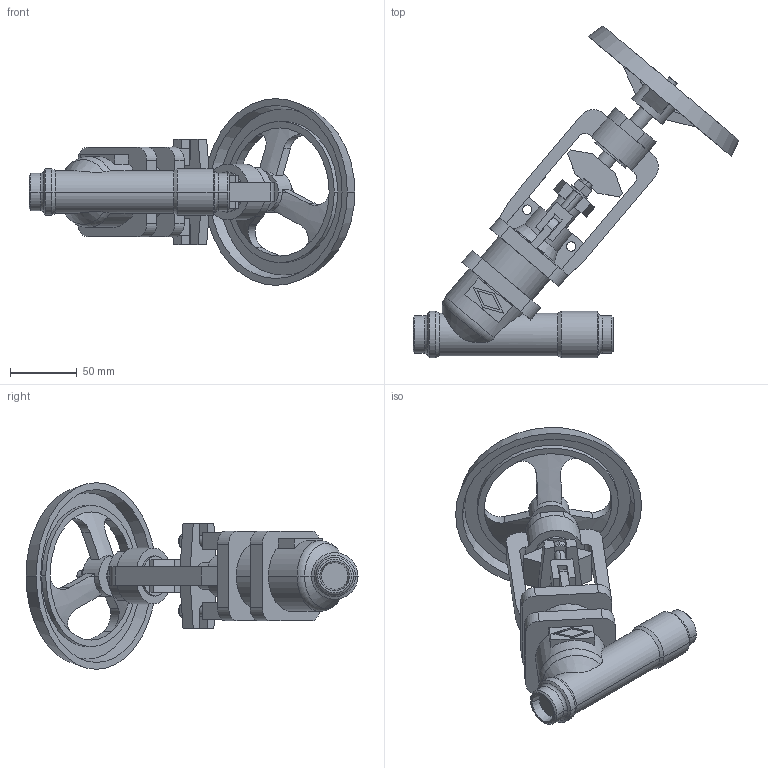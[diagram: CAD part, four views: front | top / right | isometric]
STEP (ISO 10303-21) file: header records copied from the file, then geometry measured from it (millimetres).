
FILE_DESCRIPTION(('OneSpaceDesigner STEP Export'),'2;1');
FILE_NAME('c000004358.stp','2010-05-11T 8:13:19',(''),(''),'OneSpace Designer STEP processor for AP214 (Solid Model)','OneSpace Modeling 15.50B 03-Nov-2007 (C) CoCreate Software GmbH','');
FILE_SCHEMA(('AUTOMOTIVE_DESIGN { 1 0 10303 214 1 1 1 1 }'));
Length unit declared in the file: millimetre
Products named in the file (1): 1
Bounding box: 244.21 x 248.86 x 140 mm (x, y, z)
Volume: 563154.4 mm3; surface area: 115780.8 mm2
Topology: 1 solids, 1 shells, 278 faces, 713 edges, 459 vertices
Faces by surface type: plane 145, cylinder 83, cone 36, torus 14
Entity records: 10601 total; most frequent: CARTESIAN_POINT 1935, ORIENTED_EDGE 1426, DIRECTION 1209, EDGE_CURVE 713, VERTEX_POINT 459, VECTOR 427, LINE 427, AXIS2_PLACEMENT_3D 391
